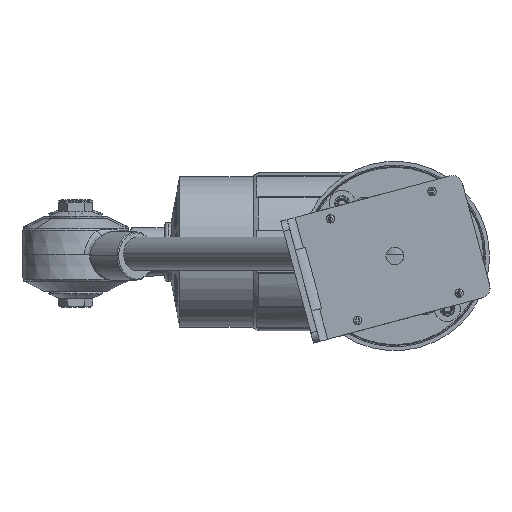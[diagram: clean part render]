
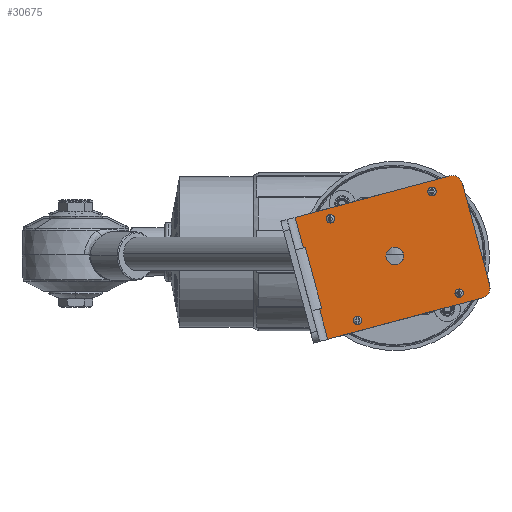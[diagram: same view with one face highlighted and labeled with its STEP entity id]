
A CAD part, front view. The second image highlights one B-rep face of the part: STEP entity #30675.
In plain terms, the highlighted planar face has unit normal (0, -1, 0).
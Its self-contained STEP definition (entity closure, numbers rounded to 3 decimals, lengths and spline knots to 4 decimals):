
#524=DIRECTION('',(0.966,0.,0.259));
#525=VECTOR('',#524,2.9921);
#526=CARTESIAN_POINT('',(5.7228,0.9528,-3.3304));
#527=LINE('',#526,#525);
#593=DIRECTION('',(0.966,0.,0.259));
#594=VECTOR('',#593,0.0394);
#595=CARTESIAN_POINT('',(5.57,0.9528,-2.7599));
#596=LINE('',#595,#594);
#597=DIRECTION('',(-0.966,0.,-0.259));
#598=VECTOR('',#597,0.0394);
#599=CARTESIAN_POINT('',(5.3023,0.9528,-1.6089));
#600=LINE('',#599,#598);
#601=DIRECTION('',(0.966,0.,0.259));
#602=VECTOR('',#601,2.9921);
#603=CARTESIAN_POINT('',(5.1114,0.9528,-1.0487));
#604=LINE('',#603,#602);
#605=CARTESIAN_POINT('',(8.0526,0.9528,
-0.4644));
#606=DIRECTION('',(0.,1.,0.));
#607=DIRECTION('',(-0.259,0.,0.966));
#608=AXIS2_PLACEMENT_3D('',#605,#606,#607);
#610=DIRECTION('',(0.259,0.,-0.966));
#611=VECTOR('',#610,1.9685);
#612=CARTESIAN_POINT('',(8.2427,0.9528,
-0.4134));
#613=LINE('',#612,#611);
#614=CARTESIAN_POINT('',(8.562,0.9528,-2.3658));
#615=DIRECTION('',(0.,1.,0.));
#616=DIRECTION('',(0.966,0.,0.259));
#617=AXIS2_PLACEMENT_3D('',#614,#615,#616);
#619=CARTESIAN_POINT('',(6.2803,0.9528,-2.9772));
#620=DIRECTION('',(0.,-1.,0.));
#621=DIRECTION('',(0.,0.,1.));
#622=AXIS2_PLACEMENT_3D('',#619,#620,#621);
#624=CARTESIAN_POINT('',(6.2803,0.9528,-2.9772));
#625=DIRECTION('',(0.,-1.,0.));
#626=DIRECTION('',(0.,0.,-1.));
#627=AXIS2_PLACEMENT_3D('',#624,#625,#626);
#629=CARTESIAN_POINT('',(8.1818,0.9528,-2.4677));
#630=DIRECTION('',(0.,-1.,0.));
#631=DIRECTION('',(0.,0.,1.));
#632=AXIS2_PLACEMENT_3D('',#629,#630,#631);
#634=CARTESIAN_POINT('',(8.1818,0.9528,-2.4677));
#635=DIRECTION('',(0.,-1.,0.));
#636=DIRECTION('',(0.,0.,-1.));
#637=AXIS2_PLACEMENT_3D('',#634,#635,#636);
#639=CARTESIAN_POINT('',(7.6723,0.9528,
-0.5663));
#640=DIRECTION('',(0.,-1.,0.));
#641=DIRECTION('',(0.,0.,1.));
#642=AXIS2_PLACEMENT_3D('',#639,#640,#641);
#644=CARTESIAN_POINT('',(7.6723,0.9528,
-0.5663));
#645=DIRECTION('',(0.,-1.,0.));
#646=DIRECTION('',(0.,0.,-1.));
#647=AXIS2_PLACEMENT_3D('',#644,#645,#646);
#649=CARTESIAN_POINT('',(5.7708,0.9528,-1.0758));
#650=DIRECTION('',(0.,-1.,0.));
#651=DIRECTION('',(0.,0.,1.));
#652=AXIS2_PLACEMENT_3D('',#649,#650,#651);
#654=CARTESIAN_POINT('',(5.7708,0.9528,-1.0758));
#655=DIRECTION('',(0.,-1.,0.));
#656=DIRECTION('',(0.,0.,-1.));
#657=AXIS2_PLACEMENT_3D('',#654,#655,#656);
#659=CARTESIAN_POINT('',(6.9763,0.9528,-1.7717));
#660=DIRECTION('',(0.,-1.,0.));
#661=DIRECTION('',(-1.,0.,0.));
#662=AXIS2_PLACEMENT_3D('',#659,#660,#661);
#664=CARTESIAN_POINT('',(6.9763,0.9528,-1.7717));
#665=DIRECTION('',(0.,-1.,0.));
#666=DIRECTION('',(1.,0.,0.));
#667=AXIS2_PLACEMENT_3D('',#664,#665,#666);
#735=DIRECTION('',(0.259,0.,-0.966));
#736=VECTOR('',#735,0.5906);
#737=CARTESIAN_POINT('',(5.57,0.9528,-2.7599));
#738=LINE('',#737,#736);
#949=DIRECTION('',(0.259,0.,-0.966));
#950=VECTOR('',#949,0.5906);
#951=CARTESIAN_POINT('',(5.1114,0.9528,-1.0487));
#952=LINE('',#951,#950);
#967=DIRECTION('',(0.259,0.,-0.966));
#968=VECTOR('',#967,1.1811);
#969=CARTESIAN_POINT('',(5.3023,0.9528,-1.6089));
#970=LINE('',#969,#968);
#27619=CARTESIAN_POINT('',(5.7228,0.9528,
-3.3304));
#27620=VERTEX_POINT('',#27619);
#27621=CARTESIAN_POINT('',(8.613,0.9528,
-2.556));
#27622=VERTEX_POINT('',#27621);
#27645=CARTESIAN_POINT('',(8.7522,0.9528,
-2.3149));
#27646=VERTEX_POINT('',#27645);
#27647=CARTESIAN_POINT('',(5.57,0.9528,
-2.7599));
#27648=CARTESIAN_POINT('',(5.608,0.9528,
-2.7498));
#27649=VERTEX_POINT('',#27647);
#27650=VERTEX_POINT('',#27648);
#27651=CARTESIAN_POINT('',(5.3023,0.9528,
-1.6089));
#27652=VERTEX_POINT('',#27651);
#27653=CARTESIAN_POINT('',(5.2643,0.9528,
-1.6191));
#27654=VERTEX_POINT('',#27653);
#27655=CARTESIAN_POINT('',(5.1114,0.9528,
-1.0487));
#27656=VERTEX_POINT('',#27655);
#27657=CARTESIAN_POINT('',(8.0016,0.9528,
-0.2742));
#27658=VERTEX_POINT('',#27657);
#27659=CARTESIAN_POINT('',(8.2427,0.9528,
-0.4134));
#27660=VERTEX_POINT('',#27659);
#27661=CARTESIAN_POINT('',(6.2803,0.9528,
-2.8985));
#27662=CARTESIAN_POINT('',(6.2803,0.9528,
-3.0559));
#27663=VERTEX_POINT('',#27661);
#27664=VERTEX_POINT('',#27662);
#27665=CARTESIAN_POINT('',(8.1818,0.9528,
-2.389));
#27666=CARTESIAN_POINT('',(8.1818,0.9528,
-2.5464));
#27667=VERTEX_POINT('',#27665);
#27668=VERTEX_POINT('',#27666);
#27669=CARTESIAN_POINT('',(7.6723,0.9528,
-0.4875));
#27670=CARTESIAN_POINT('',(7.6723,0.9528,
-0.645));
#27671=VERTEX_POINT('',#27669);
#27672=VERTEX_POINT('',#27670);
#27673=CARTESIAN_POINT('',(5.7708,0.9528,
-0.997));
#27674=CARTESIAN_POINT('',(5.7708,0.9528,
-1.1545));
#27675=VERTEX_POINT('',#27673);
#27676=VERTEX_POINT('',#27674);
#27677=CARTESIAN_POINT('',(6.8105,0.9528,
-1.7717));
#27678=CARTESIAN_POINT('',(7.142,0.9528,
-1.7717));
#27679=VERTEX_POINT('',#27677);
#27680=VERTEX_POINT('',#27678);
#30620=CARTESIAN_POINT('',(6.9573,0.9528,
-1.7768));
#30621=DIRECTION('',(0.,1.,0.));
#30622=DIRECTION('',(0.966,0.,0.259));
#30623=AXIS2_PLACEMENT_3D('',#30620,#30621,#30622);
#30624=PLANE('',#30623);
#30626=ORIENTED_EDGE('',*,*,#30625,.T.);
#30628=ORIENTED_EDGE('',*,*,#30627,.F.);
#30630=ORIENTED_EDGE('',*,*,#30629,.T.);
#30632=ORIENTED_EDGE('',*,*,#30631,.F.);
#30634=ORIENTED_EDGE('',*,*,#30633,.T.);
#30636=ORIENTED_EDGE('',*,*,#30635,.T.);
#30638=ORIENTED_EDGE('',*,*,#30637,.T.);
#30639=ORIENTED_EDGE('',*,*,#30611,.T.);
#30640=ORIENTED_EDGE('',*,*,#30538,.F.);
#30642=ORIENTED_EDGE('',*,*,#30641,.F.);
#30643=EDGE_LOOP('',(#30626,#30628,#30630,#30632,#30634,#30636,#30638,#30639,
#30640,#30642));
#30644=FACE_OUTER_BOUND('',#30643,.F.);
#30646=ORIENTED_EDGE('',*,*,#30645,.T.);
#30648=ORIENTED_EDGE('',*,*,#30647,.T.);
#30649=EDGE_LOOP('',(#30646,#30648));
#30650=FACE_BOUND('',#30649,.F.);
#30652=ORIENTED_EDGE('',*,*,#30651,.T.);
#30654=ORIENTED_EDGE('',*,*,#30653,.T.);
#30655=EDGE_LOOP('',(#30652,#30654));
#30656=FACE_BOUND('',#30655,.F.);
#30658=ORIENTED_EDGE('',*,*,#30657,.T.);
#30660=ORIENTED_EDGE('',*,*,#30659,.T.);
#30661=EDGE_LOOP('',(#30658,#30660));
#30662=FACE_BOUND('',#30661,.F.);
#30664=ORIENTED_EDGE('',*,*,#30663,.T.);
#30666=ORIENTED_EDGE('',*,*,#30665,.T.);
#30667=EDGE_LOOP('',(#30664,#30666));
#30668=FACE_BOUND('',#30667,.F.);
#30670=ORIENTED_EDGE('',*,*,#30669,.T.);
#30672=ORIENTED_EDGE('',*,*,#30671,.T.);
#30673=EDGE_LOOP('',(#30670,#30672));
#30674=FACE_BOUND('',#30673,.F.);
#30675=ADVANCED_FACE('',(#30644,#30650,#30656,#30662,#30668,#30674),#30624,.F.);
#609=CIRCLE('',#608,0.1969);
#618=CIRCLE('',#617,0.1969);
#623=CIRCLE('',#622,0.0787);
#628=CIRCLE('',#627,0.0787);
#633=CIRCLE('',#632,0.0787);
#638=CIRCLE('',#637,0.0787);
#643=CIRCLE('',#642,0.0787);
#648=CIRCLE('',#647,0.0787);
#653=CIRCLE('',#652,0.0787);
#658=CIRCLE('',#657,0.0787);
#663=CIRCLE('',#662,0.1657);
#668=CIRCLE('',#667,0.1657);
#30538=EDGE_CURVE('',#27620,#27622,#527,.T.);
#30611=EDGE_CURVE('',#27646,#27622,#618,.T.);
#30625=EDGE_CURVE('',#27649,#27650,#596,.T.);
#30627=EDGE_CURVE('',#27652,#27650,#970,.T.);
#30629=EDGE_CURVE('',#27652,#27654,#600,.T.);
#30631=EDGE_CURVE('',#27656,#27654,#952,.T.);
#30633=EDGE_CURVE('',#27656,#27658,#604,.T.);
#30635=EDGE_CURVE('',#27658,#27660,#609,.T.);
#30637=EDGE_CURVE('',#27660,#27646,#613,.T.);
#30641=EDGE_CURVE('',#27649,#27620,#738,.T.);
#30645=EDGE_CURVE('',#27663,#27664,#623,.T.);
#30647=EDGE_CURVE('',#27664,#27663,#628,.T.);
#30651=EDGE_CURVE('',#27667,#27668,#633,.T.);
#30653=EDGE_CURVE('',#27668,#27667,#638,.T.);
#30657=EDGE_CURVE('',#27671,#27672,#643,.T.);
#30659=EDGE_CURVE('',#27672,#27671,#648,.T.);
#30663=EDGE_CURVE('',#27675,#27676,#653,.T.);
#30665=EDGE_CURVE('',#27676,#27675,#658,.T.);
#30669=EDGE_CURVE('',#27679,#27680,#663,.T.);
#30671=EDGE_CURVE('',#27680,#27679,#668,.T.);
